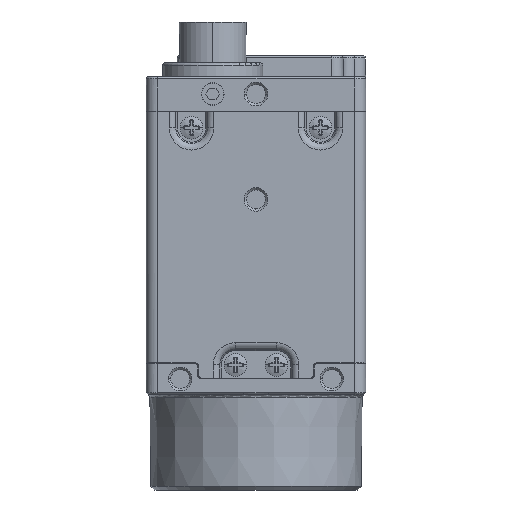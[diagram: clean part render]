
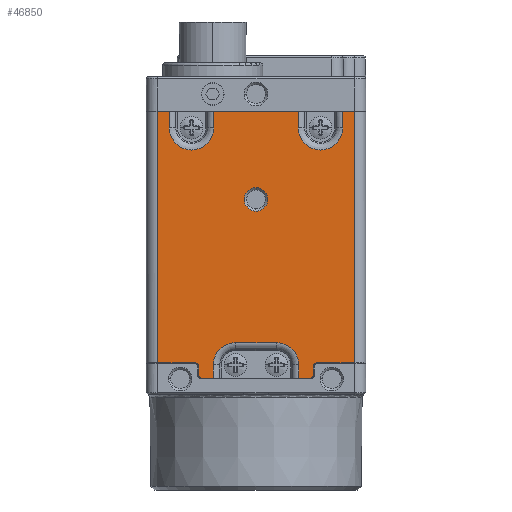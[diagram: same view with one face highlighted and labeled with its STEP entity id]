
A CAD part, front view. The second image highlights one B-rep face of the part: STEP entity #46850.
In plain terms, the highlighted planar face has unit normal (0, -1, 0).
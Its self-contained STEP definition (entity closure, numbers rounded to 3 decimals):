
#3408=DIRECTION('',(-1.,0.,0.));
#3409=VECTOR('',#3408,1.538);
#3410=CARTESIAN_POINT('',(-11.439,-14.4,
37.383));
#3411=LINE('',#3410,#3409);
#3455=DIRECTION('',(-1.,0.,0.));
#3456=VECTOR('',#3455,1.538);
#3457=CARTESIAN_POINT('',(12.977,-14.4,37.383));
#3458=LINE('',#3457,#3456);
#3479=DIRECTION('',(-1.,0.,0.));
#3480=VECTOR('',#3479,11.122);
#3481=CARTESIAN_POINT('',(5.561,-14.4,37.383));
#3482=LINE('',#3481,#3480);
#3536=DIRECTION('',(0.,0.,1.));
#3537=VECTOR('',#3536,33.165);
#3538=CARTESIAN_POINT('',(-12.977,-14.4,4.217));
#3539=LINE('',#3538,#3537);
#3540=CARTESIAN_POINT('',(-8.5,-14.4,35.25));
#3541=DIRECTION('',(0.,-1.,0.));
#3542=DIRECTION('',(-1.,0.,0.));
#3543=AXIS2_PLACEMENT_3D('',#3540,#3541,#3542);
#3545=CARTESIAN_POINT('',(8.5,-14.4,35.25));
#3546=DIRECTION('',(0.,-1.,0.));
#3547=DIRECTION('',(-1.,0.,0.));
#3548=AXIS2_PLACEMENT_3D('',#3545,#3546,#3547);
#3550=DIRECTION('',(0.,0.,1.));
#3551=VECTOR('',#3550,2.133);
#3552=CARTESIAN_POINT('',(11.439,-14.4,35.25));
#3553=LINE('',#3552,#3551);
#3554=CARTESIAN_POINT('',(8.1,-14.4,3.7));
#3555=DIRECTION('',(0.,-1.,0.));
#3556=DIRECTION('',(0.,0.,1.));
#3557=AXIS2_PLACEMENT_3D('',#3554,#3555,#3556);
#3559=CARTESIAN_POINT('',(7.1,-14.4,2.7));
#3560=DIRECTION('',(0.,1.,0.));
#3561=DIRECTION('',(1.,0.,0.));
#3562=AXIS2_PLACEMENT_3D('',#3559,#3560,#3561);
#3564=CARTESIAN_POINT('',(2.7,-14.4,3.95));
#3565=DIRECTION('',(0.,-1.,0.));
#3566=DIRECTION('',(1.,0.,0.));
#3567=AXIS2_PLACEMENT_3D('',#3564,#3565,#3566);
#3569=CARTESIAN_POINT('',(-2.7,-14.4,3.95));
#3570=DIRECTION('',(0.,-1.,0.));
#3571=DIRECTION('',(0.,0.,1.));
#3572=AXIS2_PLACEMENT_3D('',#3569,#3570,#3571);
#3574=CARTESIAN_POINT('',(-7.1,-14.4,2.7));
#3575=DIRECTION('',(0.,1.,0.));
#3576=DIRECTION('',(0.,0.,-1.));
#3577=AXIS2_PLACEMENT_3D('',#3574,#3575,#3576);
#3579=CARTESIAN_POINT('',(-8.1,-14.4,3.7));
#3580=DIRECTION('',(0.,-1.,0.));
#3581=DIRECTION('',(1.,0.,0.));
#3582=AXIS2_PLACEMENT_3D('',#3579,#3580,#3581);
#3584=CARTESIAN_POINT('',(0.,-14.4,25.8));
#3585=DIRECTION('',(0.,-1.,0.));
#3586=DIRECTION('',(0.,0.,1.));
#3587=AXIS2_PLACEMENT_3D('',#3584,#3585,#3586);
#3589=CARTESIAN_POINT('',(0.,-14.4,25.8));
#3590=DIRECTION('',(0.,-1.,0.));
#3591=DIRECTION('',(0.,0.,-1.));
#3592=AXIS2_PLACEMENT_3D('',#3589,#3590,#3591);
#3599=DIRECTION('',(0.,0.,1.));
#3600=VECTOR('',#3599,2.133);
#3601=CARTESIAN_POINT('',(-11.439,-14.4,35.25));
#3602=LINE('',#3601,#3600);
#3603=DIRECTION('',(0.,0.,-1.));
#3604=VECTOR('',#3603,2.133);
#3605=CARTESIAN_POINT('',(-5.561,-14.4,37.383));
#3606=LINE('',#3605,#3604);
#3615=DIRECTION('',(0.,0.,1.));
#3616=VECTOR('',#3615,2.133);
#3617=CARTESIAN_POINT('',(5.561,-14.4,35.25));
#3618=LINE('',#3617,#3616);
#4521=DIRECTION('',(0.,0.,1.));
#4522=VECTOR('',#4521,33.165);
#4523=CARTESIAN_POINT('',(12.977,-14.4,4.217));
#4524=LINE('',#4523,#4522);
#4536=DIRECTION('',(1.,0.,0.));
#4537=VECTOR('',#4536,4.877);
#4538=CARTESIAN_POINT('',(8.1,-14.4,4.217));
#4539=LINE('',#4538,#4537);
#4877=DIRECTION('',(1.,0.,0.));
#4878=VECTOR('',#4877,4.877);
#4879=CARTESIAN_POINT('',(-12.977,-14.4,4.217));
#4880=LINE('',#4879,#4878);
#4917=DIRECTION('',(0.,0.,-1.));
#4918=VECTOR('',#4917,1.);
#4919=CARTESIAN_POINT('',(-7.583,-14.4,3.7));
#4920=LINE('',#4919,#4918);
#4933=DIRECTION('',(1.,0.,0.));
#4934=VECTOR('',#4933,1.461);
#4935=CARTESIAN_POINT('',(-7.1,-14.4,2.217));
#4936=LINE('',#4935,#4934);
#4955=DIRECTION('',(1.,0.,0.));
#4956=VECTOR('',#4955,1.461);
#4957=CARTESIAN_POINT('',(5.639,-14.4,2.217));
#4958=LINE('',#4957,#4956);
#5057=DIRECTION('',(0.,0.,1.));
#5058=VECTOR('',#5057,1.733);
#5059=CARTESIAN_POINT('',(-5.639,-14.4,2.217));
#5060=LINE('',#5059,#5058);
#5074=DIRECTION('',(1.,0.,0.));
#5075=VECTOR('',#5074,5.4);
#5076=CARTESIAN_POINT('',(-2.7,-14.4,6.889));
#5077=LINE('',#5076,#5075);
#5088=DIRECTION('',(0.,0.,-1.));
#5089=VECTOR('',#5088,1.733);
#5090=CARTESIAN_POINT('',(5.639,-14.4,3.95));
#5091=LINE('',#5090,#5089);
#6857=DIRECTION('',(0.,0.,1.));
#6858=VECTOR('',#6857,1.);
#6859=CARTESIAN_POINT('',(7.583,-14.4,2.7));
#6860=LINE('',#6859,#6858);
#40638=CARTESIAN_POINT('',(-12.977,-14.4,4.217));
#40639=CARTESIAN_POINT('',(-12.977,-14.4,37.383));
#40640=VERTEX_POINT('',#40638);
#40641=VERTEX_POINT('',#40639);
#40642=CARTESIAN_POINT('',(-11.439,-14.4,
37.383));
#40643=VERTEX_POINT('',#40642);
#40644=CARTESIAN_POINT('',(-11.439,-14.4,35.25));
#40645=VERTEX_POINT('',#40644);
#40646=CARTESIAN_POINT('',(-5.561,-14.4,35.25));
#40647=VERTEX_POINT('',#40646);
#40648=CARTESIAN_POINT('',(-5.561,-14.4,37.383));
#40649=VERTEX_POINT('',#40648);
#40650=CARTESIAN_POINT('',(5.561,-14.4,
37.383));
#40651=VERTEX_POINT('',#40650);
#40652=CARTESIAN_POINT('',(5.561,-14.4,35.25));
#40653=VERTEX_POINT('',#40652);
#40654=CARTESIAN_POINT('',(11.439,-14.4,35.25));
#40655=VERTEX_POINT('',#40654);
#40656=CARTESIAN_POINT('',(11.439,-14.4,37.383));
#40657=VERTEX_POINT('',#40656);
#40658=CARTESIAN_POINT('',(12.977,-14.4,37.383));
#40659=VERTEX_POINT('',#40658);
#40660=CARTESIAN_POINT('',(12.977,-14.4,4.217));
#40661=VERTEX_POINT('',#40660);
#40662=CARTESIAN_POINT('',(7.583,-14.4,2.7));
#40663=CARTESIAN_POINT('',(7.583,-14.4,3.7));
#40664=VERTEX_POINT('',#40662);
#40665=VERTEX_POINT('',#40663);
#40666=CARTESIAN_POINT('',(7.1,-14.4,2.217));
#40667=VERTEX_POINT('',#40666);
#40668=CARTESIAN_POINT('',(5.639,-14.4,
2.217));
#40669=VERTEX_POINT('',#40668);
#40670=CARTESIAN_POINT('',(5.639,-14.4,3.95));
#40671=VERTEX_POINT('',#40670);
#40672=CARTESIAN_POINT('',(2.7,-14.4,6.889));
#40673=VERTEX_POINT('',#40672);
#40674=CARTESIAN_POINT('',(-2.7,-14.4,6.889));
#40675=VERTEX_POINT('',#40674);
#40676=CARTESIAN_POINT('',(-5.639,-14.4,3.95));
#40677=VERTEX_POINT('',#40676);
#40678=CARTESIAN_POINT('',(-5.639,-14.4,2.217));
#40679=VERTEX_POINT('',#40678);
#40680=CARTESIAN_POINT('',(-7.1,-14.4,2.217));
#40681=VERTEX_POINT('',#40680);
#40682=CARTESIAN_POINT('',(-7.583,-14.4,2.7));
#40683=VERTEX_POINT('',#40682);
#40684=CARTESIAN_POINT('',(-7.583,-14.4,3.7));
#40685=VERTEX_POINT('',#40684);
#40686=CARTESIAN_POINT('',(0.,-14.4,27.35));
#40687=CARTESIAN_POINT('',(0.,-14.4,24.25));
#40688=VERTEX_POINT('',#40686);
#40689=VERTEX_POINT('',#40687);
#40710=CARTESIAN_POINT('',(8.1,-14.4,4.217));
#40711=VERTEX_POINT('',#40710);
#40714=CARTESIAN_POINT('',(-8.1,-14.4,4.217));
#40715=VERTEX_POINT('',#40714);
#46790=CARTESIAN_POINT('',(0.,-14.4,19.8));
#46791=DIRECTION('',(0.,1.,0.));
#46792=DIRECTION('',(-1.,0.,0.));
#46793=AXIS2_PLACEMENT_3D('',#46790,#46791,#46792);
#46794=PLANE('',#46793);
#46795=ORIENTED_EDGE('',*,*,#46233,.T.);
#46796=ORIENTED_EDGE('',*,*,#46678,.F.);
#46798=ORIENTED_EDGE('',*,*,#46797,.F.);
#46799=ORIENTED_EDGE('',*,*,#46780,.T.);
#46801=ORIENTED_EDGE('',*,*,#46800,.F.);
#46802=ORIENTED_EDGE('',*,*,#46706,.F.);
#46804=ORIENTED_EDGE('',*,*,#46803,.F.);
#46806=ORIENTED_EDGE('',*,*,#46805,.T.);
#46808=ORIENTED_EDGE('',*,*,#46807,.T.);
#46809=ORIENTED_EDGE('',*,*,#46694,.F.);
#46811=ORIENTED_EDGE('',*,*,#46810,.F.);
#46813=ORIENTED_EDGE('',*,*,#46812,.F.);
#46815=ORIENTED_EDGE('',*,*,#46814,.T.);
#46817=ORIENTED_EDGE('',*,*,#46816,.F.);
#46819=ORIENTED_EDGE('',*,*,#46818,.T.);
#46821=ORIENTED_EDGE('',*,*,#46820,.F.);
#46823=ORIENTED_EDGE('',*,*,#46822,.F.);
#46825=ORIENTED_EDGE('',*,*,#46824,.T.);
#46827=ORIENTED_EDGE('',*,*,#46826,.F.);
#46829=ORIENTED_EDGE('',*,*,#46828,.T.);
#46831=ORIENTED_EDGE('',*,*,#46830,.F.);
#46833=ORIENTED_EDGE('',*,*,#46832,.F.);
#46835=ORIENTED_EDGE('',*,*,#46834,.T.);
#46837=ORIENTED_EDGE('',*,*,#46836,.F.);
#46839=ORIENTED_EDGE('',*,*,#46838,.T.);
#46841=ORIENTED_EDGE('',*,*,#46840,.F.);
#46842=EDGE_LOOP('',(#46795,#46796,#46798,#46799,#46801,#46802,#46804,#46806,
#46808,#46809,#46811,#46813,#46815,#46817,#46819,#46821,#46823,#46825,#46827,
#46829,#46831,#46833,#46835,#46837,#46839,#46841));
#46843=FACE_OUTER_BOUND('',#46842,.F.);
#46845=ORIENTED_EDGE('',*,*,#46844,.T.);
#46847=ORIENTED_EDGE('',*,*,#46846,.T.);
#46848=EDGE_LOOP('',(#46845,#46847));
#46849=FACE_BOUND('',#46848,.F.);
#46850=ADVANCED_FACE('',(#46843,#46849),#46794,.F.);
#3544=CIRCLE('',#3543,2.939);
#3549=CIRCLE('',#3548,2.939);
#3558=CIRCLE('',#3557,0.517);
#3563=CIRCLE('',#3562,0.483);
#3568=CIRCLE('',#3567,2.939);
#3573=CIRCLE('',#3572,2.939);
#3578=CIRCLE('',#3577,0.483);
#3583=CIRCLE('',#3582,0.517);
#3588=CIRCLE('',#3587,1.55);
#3593=CIRCLE('',#3592,1.55);
#46233=EDGE_CURVE('',#40640,#40641,#3539,.T.);
#46678=EDGE_CURVE('',#40643,#40641,#3411,.T.);
#46694=EDGE_CURVE('',#40659,#40657,#3458,.T.);
#46706=EDGE_CURVE('',#40651,#40649,#3482,.T.);
#46780=EDGE_CURVE('',#40645,#40647,#3544,.T.);
#46797=EDGE_CURVE('',#40645,#40643,#3602,.T.);
#46800=EDGE_CURVE('',#40649,#40647,#3606,.T.);
#46803=EDGE_CURVE('',#40653,#40651,#3618,.T.);
#46805=EDGE_CURVE('',#40653,#40655,#3549,.T.);
#46807=EDGE_CURVE('',#40655,#40657,#3553,.T.);
#46810=EDGE_CURVE('',#40661,#40659,#4524,.T.);
#46812=EDGE_CURVE('',#40711,#40661,#4539,.T.);
#46814=EDGE_CURVE('',#40711,#40665,#3558,.T.);
#46816=EDGE_CURVE('',#40664,#40665,#6860,.T.);
#46818=EDGE_CURVE('',#40664,#40667,#3563,.T.);
#46820=EDGE_CURVE('',#40669,#40667,#4958,.T.);
#46822=EDGE_CURVE('',#40671,#40669,#5091,.T.);
#46824=EDGE_CURVE('',#40671,#40673,#3568,.T.);
#46826=EDGE_CURVE('',#40675,#40673,#5077,.T.);
#46828=EDGE_CURVE('',#40675,#40677,#3573,.T.);
#46830=EDGE_CURVE('',#40679,#40677,#5060,.T.);
#46832=EDGE_CURVE('',#40681,#40679,#4936,.T.);
#46834=EDGE_CURVE('',#40681,#40683,#3578,.T.);
#46836=EDGE_CURVE('',#40685,#40683,#4920,.T.);
#46838=EDGE_CURVE('',#40685,#40715,#3583,.T.);
#46840=EDGE_CURVE('',#40640,#40715,#4880,.T.);
#46844=EDGE_CURVE('',#40688,#40689,#3588,.T.);
#46846=EDGE_CURVE('',#40689,#40688,#3593,.T.);
